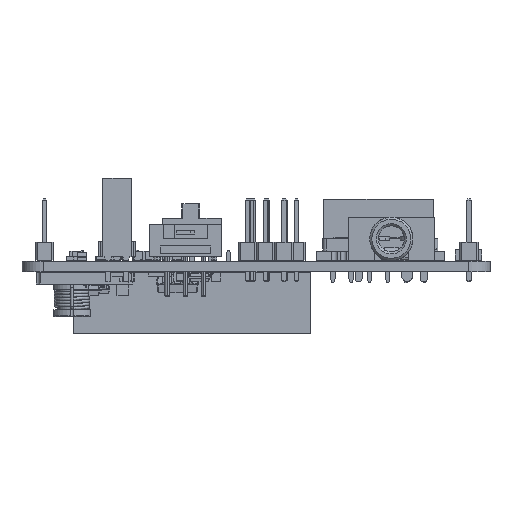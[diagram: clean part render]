
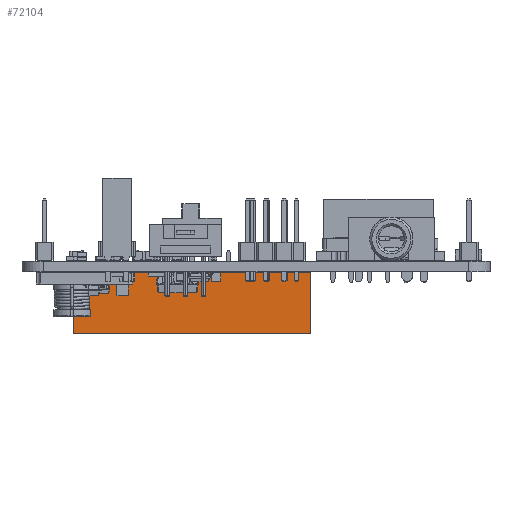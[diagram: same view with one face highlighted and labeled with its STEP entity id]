
A CAD part, front view. The second image highlights one B-rep face of the part: STEP entity #72104.
In plain terms, the highlighted planar face has unit normal (0, -1, 0) as drawn and (1, 0, 0) by its records, which use the part's own axes.
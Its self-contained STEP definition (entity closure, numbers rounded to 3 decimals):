
#72104 = ADVANCED_FACE('',(#72105),#72139,.F.);
#72105 = FACE_BOUND('',#72106,.F.);
#72106 = EDGE_LOOP('',(#72107,#72117,#72125,#72133));
#72107 = ORIENTED_EDGE('',*,*,#72108,.T.);
#72108 = EDGE_CURVE('',#72109,#72111,#72113,.T.);
#72109 = VERTEX_POINT('',#72110);
#72110 = CARTESIAN_POINT('',(1.27,-31.75,0.));
#72111 = VERTEX_POINT('',#72112);
#72112 = CARTESIAN_POINT('',(1.27,-31.75,8.5));
#72113 = LINE('',#72114,#72115);
#72114 = CARTESIAN_POINT('',(1.27,-31.75,0.));
#72115 = VECTOR('',#72116,1.);
#72116 = DIRECTION('',(0.,0.,1.));
#72117 = ORIENTED_EDGE('',*,*,#72118,.T.);
#72118 = EDGE_CURVE('',#72111,#72119,#72121,.T.);
#72119 = VERTEX_POINT('',#72120);
#72120 = CARTESIAN_POINT('',(1.27,1.27,8.5));
#72121 = LINE('',#72122,#72123);
#72122 = CARTESIAN_POINT('',(1.27,-31.75,8.5));
#72123 = VECTOR('',#72124,1.);
#72124 = DIRECTION('',(0.,1.,0.));
#72125 = ORIENTED_EDGE('',*,*,#72126,.F.);
#72126 = EDGE_CURVE('',#72127,#72119,#72129,.T.);
#72127 = VERTEX_POINT('',#72128);
#72128 = CARTESIAN_POINT('',(1.27,1.27,0.));
#72129 = LINE('',#72130,#72131);
#72130 = CARTESIAN_POINT('',(1.27,1.27,0.));
#72131 = VECTOR('',#72132,1.);
#72132 = DIRECTION('',(0.,0.,1.));
#72133 = ORIENTED_EDGE('',*,*,#72134,.F.);
#72134 = EDGE_CURVE('',#72109,#72127,#72135,.T.);
#72135 = LINE('',#72136,#72137);
#72136 = CARTESIAN_POINT('',(1.27,-31.75,0.));
#72137 = VECTOR('',#72138,1.);
#72138 = DIRECTION('',(0.,1.,0.));
#72139 = PLANE('',#72140);
#72140 = AXIS2_PLACEMENT_3D('',#72141,#72142,#72143);
#72141 = CARTESIAN_POINT('',(1.27,-31.75,0.));
#72142 = DIRECTION('',(-1.,0.,0.));
#72143 = DIRECTION('',(0.,1.,0.));
